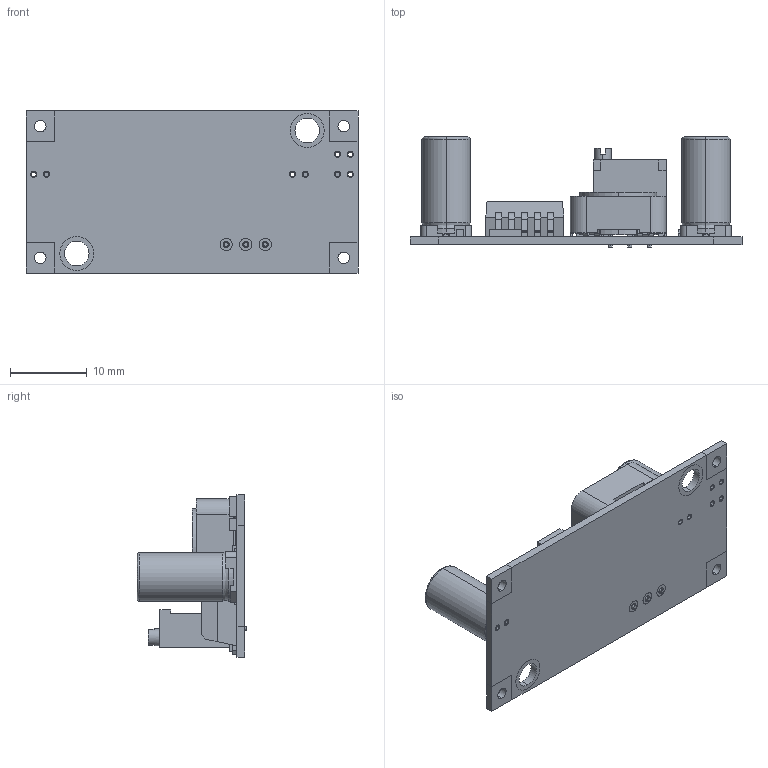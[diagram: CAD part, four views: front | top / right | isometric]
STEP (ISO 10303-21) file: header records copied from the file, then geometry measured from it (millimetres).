
FILE_DESCRIPTION (( 'STEP AP214' ), '1' );
FILE_NAME ('USA_MC00100.STEP', '2025-05-22T18:30:40', ( '' ), ( '' ), 'SwSTEP 2.0', 'SolidWorks 2021', '' );
FILE_SCHEMA (( 'AUTOMOTIVE_DESIGN' ));
Length unit declared in the file: millimetre
Products named in the file (6): LM2596DSADJG; EEE1HA470XAP; DR125-331-R; 3296W-1-104; USA_MC00100; MC00100
Assembly tree (6 placements, depth 2):
  USA_MC00100
    MC00100
    3296W-1-104
    DR125-331-R
    LM2596DSADJG
    EEE1HA470XAP  x2
Bounding box: 43.18 x 14.3 x 21.08 mm (x, y, z)
Volume: 3331.8 mm3; surface area: 4798.7 mm2
Topology: 47 solids, 47 shells, 678 faces, 1717 edges, 1132 vertices
Faces by surface type: plane 421, cylinder 239, bspline 18
Entity records: 19738 total; most frequent: CARTESIAN_POINT 3323, DIRECTION 3139, ORIENTED_EDGE 3030, EDGE_CURVE 1515, VECTOR 1055, LINE 1055, AXIS2_PLACEMENT_3D 1042, VERTEX_POINT 1006
